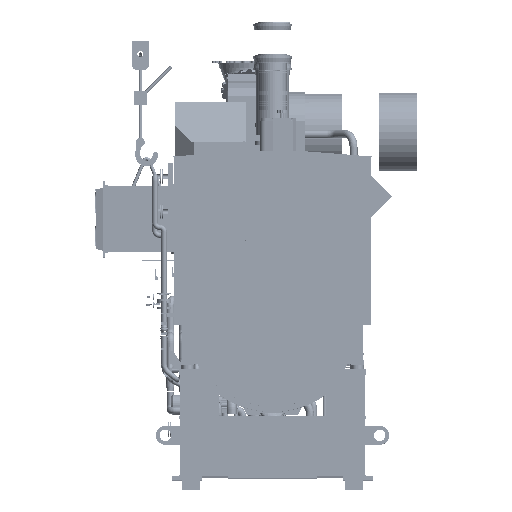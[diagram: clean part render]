
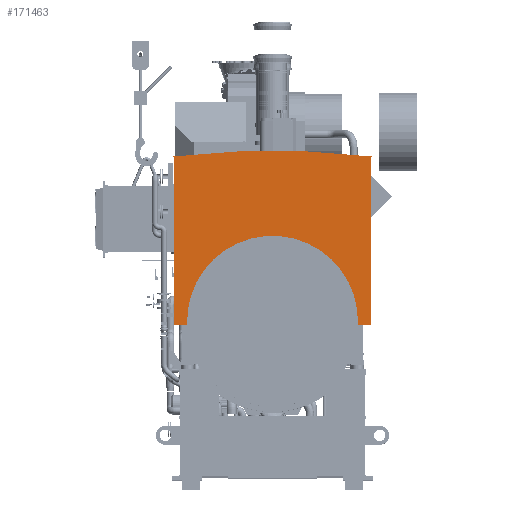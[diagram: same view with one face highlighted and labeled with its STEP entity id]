
A CAD part, top view. The second image highlights one B-rep face of the part: STEP entity #171463.
In plain terms, the highlighted planar face has unit normal (0, 0, 1).
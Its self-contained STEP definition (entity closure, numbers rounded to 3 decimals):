
#168288=DIRECTION('',(-1.,0.,0.));
#168289=VECTOR('',#168288,145.795);
#168290=CARTESIAN_POINT('',(-969.201,-39.351,4082.5));
#168291=LINE('',#168290,#168289);
#168292=DIRECTION('',(0.,1.,0.));
#168293=VECTOR('',#168292,1906.36);
#168294=CARTESIAN_POINT('',(-1114.997,-39.351,4082.5));
#168295=LINE('',#168294,#168293);
#168296=CARTESIAN_POINT('',(0.,-7684.259,4082.5));
#168297=DIRECTION('',(0.,0.,1.));
#168298=DIRECTION('',(-0.116,0.993,0.));
#168299=AXIS2_PLACEMENT_3D('',#168296,#168297,#168298);
#168301=DIRECTION('',(-0.093,0.996,0.));
#168302=VECTOR('',#168301,5.);
#168303=CARTESIAN_POINT('',(-1124.536,1865.891,4082.5));
#168304=LINE('',#168303,#168302);
#168305=CARTESIAN_POINT('',(0.,-7684.2,4082.5));
#168306=DIRECTION('',(0.,0.,-1.));
#168307=DIRECTION('',(-0.117,0.993,0.));
#168308=AXIS2_PLACEMENT_3D('',#168305,#168306,#168307);
#168310=DIRECTION('',(-0.093,-0.996,0.));
#168311=VECTOR('',#168310,5.);
#168312=CARTESIAN_POINT('',(1125.,1870.87,4082.5));
#168313=LINE('',#168312,#168311);
#168314=CARTESIAN_POINT('',(0.,-7684.259,4082.5));
#168315=DIRECTION('',(0.,0.,1.));
#168316=DIRECTION('',(0.117,0.993,0.));
#168317=AXIS2_PLACEMENT_3D('',#168314,#168315,#168316);
#168319=DIRECTION('',(0.,-1.,0.));
#168320=VECTOR('',#168319,1906.36);
#168321=CARTESIAN_POINT('',(1115.003,1867.009,4082.5));
#168322=LINE('',#168321,#168320);
#168323=DIRECTION('',(-1.,0.,0.));
#168324=VECTOR('',#168323,145.802);
#168325=CARTESIAN_POINT('',(1115.003,-39.352,4082.5));
#168326=LINE('',#168325,#168324);
#168719=CARTESIAN_POINT('',(0.,0.,4082.5));
#168720=DIRECTION('',(0.,0.,-1.));
#168721=DIRECTION('',(-0.999,-0.041,0.));
#168722=AXIS2_PLACEMENT_3D('',#168719,#168720,#168721);
#170668=CARTESIAN_POINT('',(-1114.997,1867.01,4082.5));
#170669=CARTESIAN_POINT('',(-1124.536,1865.891,4082.5));
#170670=VERTEX_POINT('',#170668);
#170671=VERTEX_POINT('',#170669);
#170672=CARTESIAN_POINT('',(-1125.,1870.87,4082.5));
#170673=VERTEX_POINT('',#170672);
#170674=CARTESIAN_POINT('',(1125.,1870.87,4082.5));
#170675=VERTEX_POINT('',#170674);
#170676=CARTESIAN_POINT('',(1124.536,1865.891,4082.5));
#170677=VERTEX_POINT('',#170676);
#170678=CARTESIAN_POINT('',(1115.003,1867.009,4082.5));
#170679=VERTEX_POINT('',#170678);
#170680=CARTESIAN_POINT('',(1115.003,-39.352,4082.5));
#170681=VERTEX_POINT('',#170680);
#170682=CARTESIAN_POINT('',(-1114.997,-39.351,4082.5));
#170683=VERTEX_POINT('',#170682);
#170712=CARTESIAN_POINT('',(969.201,-39.352,4082.5));
#170713=VERTEX_POINT('',#170712);
#170714=CARTESIAN_POINT('',(-969.201,-39.351,4082.5));
#170715=VERTEX_POINT('',#170714);
#171436=CARTESIAN_POINT('',(0.,0.,4082.5));
#171437=DIRECTION('',(0.,0.,-1.));
#171438=DIRECTION('',(-1.,0.,0.));
#171439=AXIS2_PLACEMENT_3D('',#171436,#171437,#171438);
#171440=PLANE('',#171439);
#171442=ORIENTED_EDGE('',*,*,#171441,.F.);
#171444=ORIENTED_EDGE('',*,*,#171443,.T.);
#171446=ORIENTED_EDGE('',*,*,#171445,.T.);
#171448=ORIENTED_EDGE('',*,*,#171447,.T.);
#171450=ORIENTED_EDGE('',*,*,#171449,.T.);
#171452=ORIENTED_EDGE('',*,*,#171451,.T.);
#171454=ORIENTED_EDGE('',*,*,#171453,.T.);
#171456=ORIENTED_EDGE('',*,*,#171455,.T.);
#171458=ORIENTED_EDGE('',*,*,#171457,.T.);
#171460=ORIENTED_EDGE('',*,*,#171459,.T.);
#171461=EDGE_LOOP('',(#171442,#171444,#171446,#171448,#171450,#171452,#171454,
#171456,#171458,#171460));
#171462=FACE_OUTER_BOUND('',#171461,.F.);
#171463=ADVANCED_FACE('',(#171462),#171440,.F.);
#168300=CIRCLE('',#168299,9616.13);
#168309=CIRCLE('',#168308,9621.07);
#168318=CIRCLE('',#168317,9616.13);
#168723=CIRCLE('',#168722,970.);
#171441=EDGE_CURVE('',#170715,#170713,#168723,.T.);
#171443=EDGE_CURVE('',#170715,#170683,#168291,.T.);
#171445=EDGE_CURVE('',#170683,#170670,#168295,.T.);
#171447=EDGE_CURVE('',#170670,#170671,#168300,.T.);
#171449=EDGE_CURVE('',#170671,#170673,#168304,.T.);
#171451=EDGE_CURVE('',#170673,#170675,#168309,.T.);
#171453=EDGE_CURVE('',#170675,#170677,#168313,.T.);
#171455=EDGE_CURVE('',#170677,#170679,#168318,.T.);
#171457=EDGE_CURVE('',#170679,#170681,#168322,.T.);
#171459=EDGE_CURVE('',#170681,#170713,#168326,.T.);
